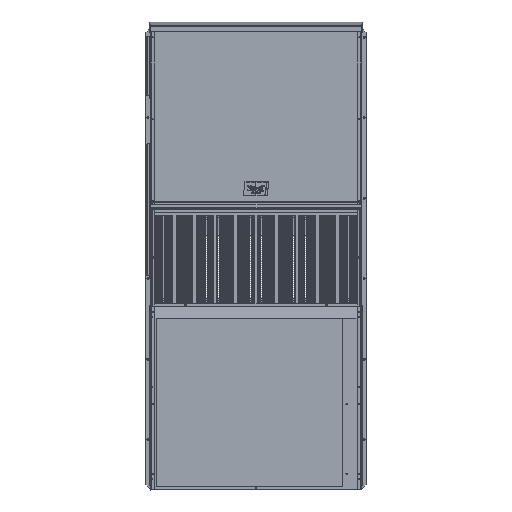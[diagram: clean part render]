
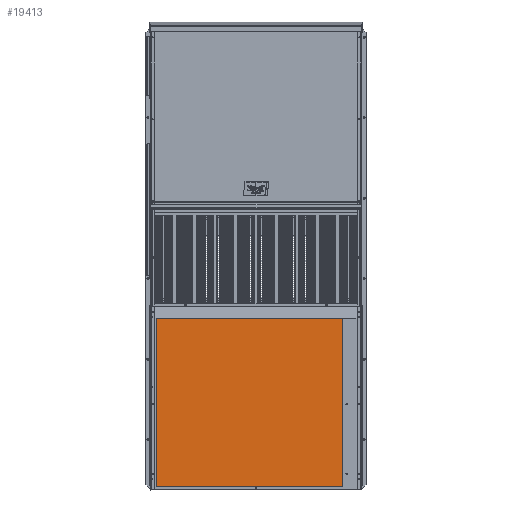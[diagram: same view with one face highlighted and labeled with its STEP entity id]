
A CAD part, top view. The second image highlights one B-rep face of the part: STEP entity #19413.
In plain terms, the highlighted planar face has unit normal (0, 0, 1).
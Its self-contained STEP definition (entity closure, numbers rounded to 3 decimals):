
#5904 = LINE ( 'NONE', #93941, #122796 ) ;
#8762 = VERTEX_POINT ( 'NONE', #62528 ) ;
#9062 = CARTESIAN_POINT ( 'NONE',  ( -13.405, -0.663, -13.118 ) ) ;
#9907 = EDGE_CURVE ( 'NONE', #54591, #142543, #112188, .T. ) ;
#18804 = CARTESIAN_POINT ( 'NONE',  ( -17.526, 35.984, -13.118 ) ) ;
#18918 = ORIENTED_EDGE ( 'NONE', *, *, #23137, .T. ) ;
#19413 = ADVANCED_FACE ( 'NONE', ( #100365 ), #176464, .T. ) ;
#23137 = EDGE_CURVE ( 'NONE', #142543, #8762, #177795, .T. ) ;
#24379 = DIRECTION ( 'NONE',  ( 0., 0., 1. ) ) ;
#37313 = CARTESIAN_POINT ( 'NONE',  ( -17.526, -0.08, -13.118 ) ) ;
#45245 = CARTESIAN_POINT ( 'NONE',  ( -13.405, -0.08, -13.118 ) ) ;
#45670 = ORIENTED_EDGE ( 'NONE', *, *, #60009, .T. ) ;
#54591 = VERTEX_POINT ( 'NONE', #37313 ) ;
#57059 = CARTESIAN_POINT ( 'NONE',  ( -17.526, -0.663, -13.118 ) ) ;
#60009 = EDGE_CURVE ( 'NONE', #144221, #54591, #151002, .T. ) ;
#60799 = VECTOR ( 'NONE', #68998, 39.37 ) ;
#62528 = CARTESIAN_POINT ( 'NONE',  ( -54.599, 35.984, -13.118 ) ) ;
#68998 = DIRECTION ( 'NONE',  ( -1., 0., 0. ) ) ;
#71602 = VECTOR ( 'NONE', #87769, 39.37 ) ;
#77855 = CARTESIAN_POINT ( 'NONE',  ( -54.599, -0.08, -13.118 ) ) ;
#87769 = DIRECTION ( 'NONE',  ( 0., 1., 0. ) ) ;
#93941 = CARTESIAN_POINT ( 'NONE',  ( -54.599, -0.663, -13.118 ) ) ;
#100365 = FACE_OUTER_BOUND ( 'NONE', #156328, .T. ) ;
#106289 = EDGE_CURVE ( 'NONE', #8762, #144221, #5904, .T. ) ;
#110312 = VECTOR ( 'NONE', #121934, 39.37 ) ;
#112188 = LINE ( 'NONE', #57059, #71602 ) ;
#121934 = DIRECTION ( 'NONE',  ( 1., 0., 0. ) ) ;
#122796 = VECTOR ( 'NONE', #155332, 39.37 ) ;
#130228 = ORIENTED_EDGE ( 'NONE', *, *, #9907, .T. ) ;
#131083 = DIRECTION ( 'NONE',  ( 0., -1., 0. ) ) ;
#142543 = VERTEX_POINT ( 'NONE', #18804 ) ;
#144221 = VERTEX_POINT ( 'NONE', #77855 ) ;
#149217 = AXIS2_PLACEMENT_3D ( 'NONE', #9062, #24379, #131083 ) ;
#151002 = LINE ( 'NONE', #45245, #110312 ) ;
#155332 = DIRECTION ( 'NONE',  ( 0., -1., 0. ) ) ;
#156328 = EDGE_LOOP ( 'NONE', ( #18918, #192017, #45670, #130228 ) ) ;
#160450 = CARTESIAN_POINT ( 'NONE',  ( -13.405, 35.984, -13.118 ) ) ;
#176464 = PLANE ( 'NONE',  #149217 ) ;
#177795 = LINE ( 'NONE', #160450, #60799 ) ;
#192017 = ORIENTED_EDGE ( 'NONE', *, *, #106289, .T. ) ;
